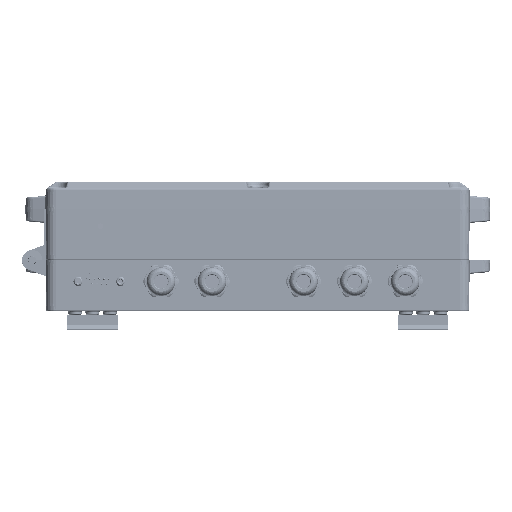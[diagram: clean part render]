
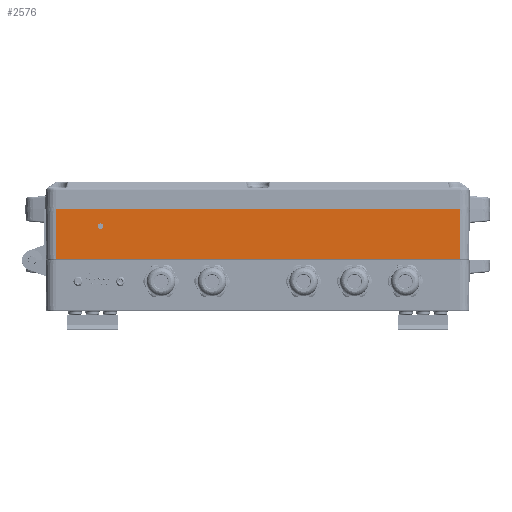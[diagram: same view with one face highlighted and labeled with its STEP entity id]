
A CAD part, top view. The second image highlights one B-rep face of the part: STEP entity #2576.
In plain terms, the highlighted planar face has unit normal (0, -0.009, 1) as drawn and (0, -0.009, -1) by its records, which use the part's own axes.
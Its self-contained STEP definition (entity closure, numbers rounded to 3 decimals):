
#2576=ADVANCED_FACE('',(#58578,#58580),#58582,.T.);
#58578=FACE_BOUND('',#58579,.T.);
#58579=EDGE_LOOP('',(#135437,#135438,#135439,#135440));
#58580=FACE_BOUND('',#58581,.T.);
#58581=EDGE_LOOP('',(#135441));
#58582=PLANE('',#58583);
#58583=AXIS2_PLACEMENT_3D('',#58584,#58585,#58586);
#58584=CARTESIAN_POINT('',(-119.,30.,-62.5));
#58585=DIRECTION('',(0.,-0.009,-1.));
#58586=DIRECTION('',(0.,1.,-0.009));
#135437=ORIENTED_EDGE('',*,*,#152609,.T.);
#135438=ORIENTED_EDGE('',*,*,#152610,.T.);
#135439=ORIENTED_EDGE('',*,*,#152611,.F.);
#135440=ORIENTED_EDGE('',*,*,#152612,.F.);
#135441=ORIENTED_EDGE('',*,*,#152613,.T.);
#152609=EDGE_CURVE('',#161187,#161188,#161189,.F.);
#152610=EDGE_CURVE('',#161188,#161190,#161191,.T.);
#152611=EDGE_CURVE('',#161192,#161190,#161193,.F.);
#152612=EDGE_CURVE('',#161187,#161192,#161194,.T.);
#152613=EDGE_CURVE('',#161195,#161195,#161196,.F.);
#161187=VERTEX_POINT('',#175498);
#161188=VERTEX_POINT('',#175499);
#161189=LINE('',#175500,#175501);
#161190=VERTEX_POINT('',#175503);
#161191=LINE('',#175504,#175505);
#161192=VERTEX_POINT('',#175507);
#161193=LINE('',#175508,#175509);
#161194=LINE('',#175511,#175512);
#161195=VERTEX_POINT('',#175514);
#161196=(BOUNDED_CURVE()B_SPLINE_CURVE(3,
(#175515,#175516,#175517,#175518,#175519,#175520,#175521),
.UNSPECIFIED.,.T.,.F.)B_SPLINE_CURVE_WITH_KNOTS((4,3,4),
(0.,0.5,1.),
.UNSPECIFIED.)CURVE()GEOMETRIC_REPRESENTATION_ITEM()RATIONAL_B_SPLINE_CURVE((1.,
0.333,0.333,1.,0.333,0.333,1.))
REPRESENTATION_ITEM(''));
#175498=CARTESIAN_POINT('',(119.,30.,-62.5));
#175499=CARTESIAN_POINT('',(119.,0.496,-62.243));
#175500=CARTESIAN_POINT('',(119.,0.496,-62.243));
#175501=VECTOR('',#175502,1.);
#175502=DIRECTION('',(0.,1.,-0.009));
#175503=CARTESIAN_POINT('',(-119.,0.496,-62.243));
#175504=CARTESIAN_POINT('',(119.,0.496,-62.243));
#175505=VECTOR('',#175506,1.);
#175506=DIRECTION('',(-1.,0.,0.));
#175507=CARTESIAN_POINT('',(-119.,30.,-62.5));
#175508=CARTESIAN_POINT('',(-119.,0.496,-62.243));
#175509=VECTOR('',#175510,1.);
#175510=DIRECTION('',(0.,1.,-0.009));
#175511=CARTESIAN_POINT('',(119.,30.,-62.5));
#175512=VECTOR('',#175513,1.);
#175513=DIRECTION('',(-1.,0.,0.));
#175514=CARTESIAN_POINT('',(94.415,19.95,-62.412));
#175515=CARTESIAN_POINT('',(94.415,19.95,-62.412));
#175516=CARTESIAN_POINT('',(94.415,16.528,-62.382));
#175517=CARTESIAN_POINT('',(90.993,16.528,-62.382));
#175518=CARTESIAN_POINT('',(90.993,19.95,-62.412));
#175519=CARTESIAN_POINT('',(90.993,23.371,-62.442));
#175520=CARTESIAN_POINT('',(94.415,23.371,-62.442));
#175521=CARTESIAN_POINT('',(94.415,19.95,-62.412));
